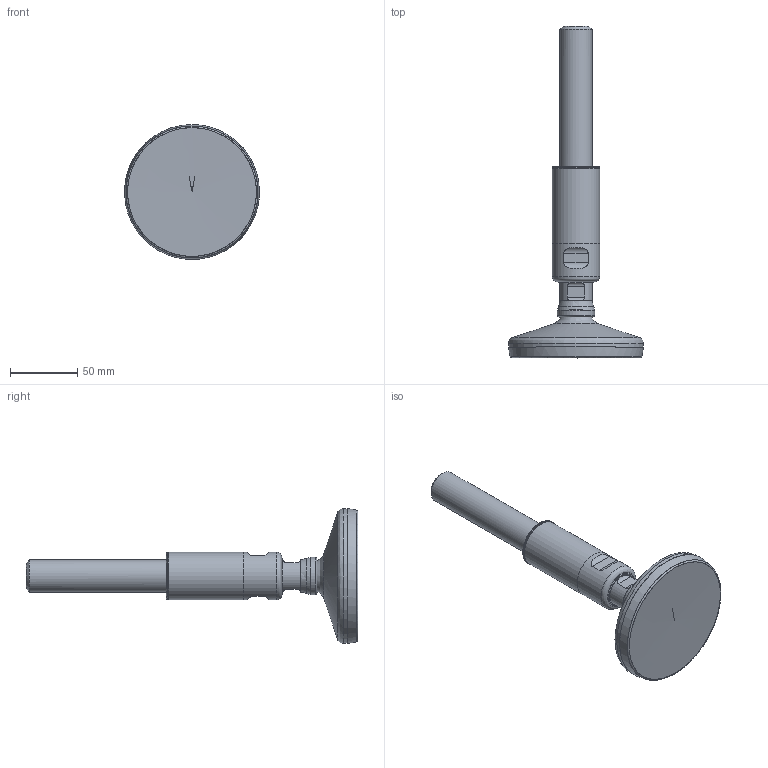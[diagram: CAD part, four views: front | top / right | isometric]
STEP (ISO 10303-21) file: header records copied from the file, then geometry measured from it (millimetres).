
FILE_DESCRIPTION(('STEP AP203'),'2;1');
FILE_NAME('27170-3A.stp','2017-07-14T17:04:49',(''),(''),'2014.1.117','THINKDESIGN','');
FILE_SCHEMA(('CONFIG_CONTROL_DESIGN'));
Length unit declared in the file: millimetre
Bounding box: 100 x 246 x 100 mm (x, y, z)
Volume: 161267.4 mm3; surface area: 79747.2 mm2
Topology: 5 solids, 5 shells, 105 faces, 313 edges, 222 vertices
Faces by surface type: bspline 39, cylinder 37, plane 29
Full cylindrical faces by diameter (mm): 8.5 x1, 10 x1, 10.3 x1, 12 x2, 16 x2, 21 x1, 22 x1, 22.4 x1, 23.8 x1, 24 x1, 24.4 x2, 26.8 x2, 27 x2, 27.5 x1, 29.8 x2, 32 x2, 35 x2, 35.4 x1, 94 x2, 100 x1
Entity records: 4680 total; most frequent: CARTESIAN_POINT 2185, DIRECTION 536, ORIENTED_EDGE 356, AXIS2_PLACEMENT_3D 232, EDGE_CURVE 178, CIRCLE 164, COMPOSITE_CURVE_SEGMENT 130, VERTEX_POINT 127
